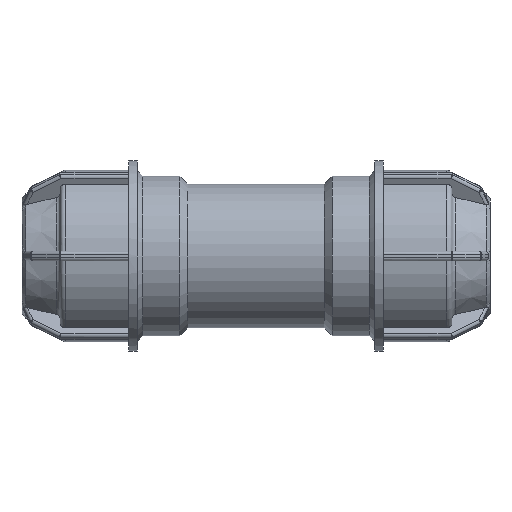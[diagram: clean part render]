
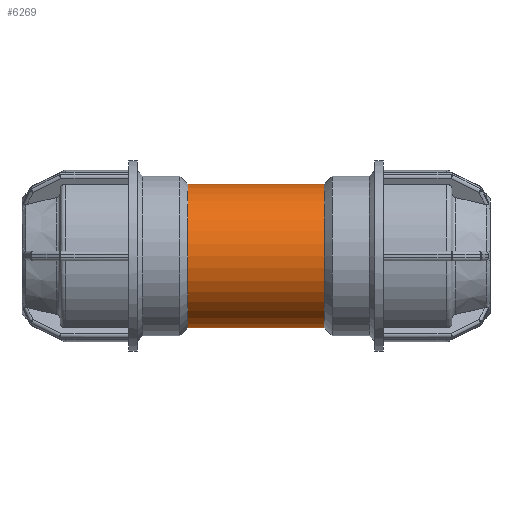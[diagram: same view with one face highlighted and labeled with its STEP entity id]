
A CAD part, front view. The second image highlights one B-rep face of the part: STEP entity #6269.
In plain terms, the highlighted cylindrical face has radius 23.04 mm (diameter 46.08 mm), a full revolution.
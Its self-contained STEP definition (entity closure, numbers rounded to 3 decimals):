
#1030=CIRCLE('',#6286,23.04);
#1197=CIRCLE('',#6652,23.04);
#1418=FACE_BOUND('',#2268,.T.);
#1419=FACE_BOUND('',#2269,.T.);
#1829=FACE_OUTER_BOUND('',#2267,.T.);
#2267=EDGE_LOOP('',(#5723));
#2268=EDGE_LOOP('',(#5724));
#2269=EDGE_LOOP('',(#5725));
#2291=B_SPLINE_CURVE_WITH_KNOTS('',3,(#8966,#8967,#8968,#8969,#8970,#8971,
#8972,#8973,#8974,#8975,#8976,#8977,#8978,#8979,#8980,#8981,#8982,#8983,
#8984,#8985,#8986,#8987,#8988,#8989,#8990,#8991,#8992,#8993,#8994,#8995,
#8996,#8997,#8998,#8999,#9000,#9001,#9002,#9003,#9004,#9005,#9006,#9007,
#9008,#9009,#9010,#9011,#9012,#9013,#9014,#9015),.UNSPECIFIED.,.T.,.F.,
(4,2,2,2,2,2,2,2,2,2,2,2,2,2,2,2,2,2,2,2,2,2,2,2,4),(0.,0.248,
0.496,0.992,1.485,1.732,1.979,
2.226,2.473,2.967,3.462,3.71,
3.958,4.206,4.454,4.95,5.444,
5.691,5.938,6.184,6.431,6.925,
7.421,7.669,7.917),.UNSPECIFIED.);
#2475=VERTEX_POINT('',#8965);
#2477=VERTEX_POINT('',#9019);
#2740=VERTEX_POINT('',#10508);
#3014=EDGE_CURVE('',#2475,#2475,#2291,.T.);
#3016=EDGE_CURVE('',#2477,#2477,#1030,.T.);
#3465=EDGE_CURVE('',#2740,#2740,#1197,.T.);
#5723=ORIENTED_EDGE('',*,*,#3016,.T.);
#5724=ORIENTED_EDGE('',*,*,#3014,.T.);
#5725=ORIENTED_EDGE('',*,*,#3465,.F.);
#5864=CYLINDRICAL_SURFACE('',#7018,23.04);
#6269=ADVANCED_FACE('',(#1829,#1418,#1419),#5864,.T.);
#6286=AXIS2_PLACEMENT_3D('',#9020,#7044,#7045);
#6652=AXIS2_PLACEMENT_3D('',#10509,#7956,#7957);
#7018=AXIS2_PLACEMENT_3D('',#12012,#8868,#8869);
#7044=DIRECTION('center_axis',(1.,0.,0.));
#7045=DIRECTION('ref_axis',(0.,0.,-1.));
#7956=DIRECTION('center_axis',(1.,0.,0.));
#7957=DIRECTION('ref_axis',(0.,0.,-1.));
#8868=DIRECTION('center_axis',(1.,0.,0.));
#8869=DIRECTION('ref_axis',(0.,1.,0.));
#8965=CARTESIAN_POINT('',(0.,19.157,-12.8));
#8966=CARTESIAN_POINT('Ctrl Pts',(0.,19.157,
-12.8));
#8967=CARTESIAN_POINT('Ctrl Pts',(0.826,19.157,-12.8));
#8968=CARTESIAN_POINT('Ctrl Pts',(1.673,19.212,-12.719));
#8969=CARTESIAN_POINT('Ctrl Pts',(3.342,19.429,-12.385));
#8970=CARTESIAN_POINT('Ctrl Pts',(4.165,19.59,-12.133));
#8971=CARTESIAN_POINT('Ctrl Pts',(6.518,20.179,-11.147));
#8972=CARTESIAN_POINT('Ctrl Pts',(7.932,20.71,-10.17));
#8973=CARTESIAN_POINT('Ctrl Pts',(10.165,21.664,-7.937));
#8974=CARTESIAN_POINT('Ctrl Pts',(11.145,22.156,-6.522));
#8975=CARTESIAN_POINT('Ctrl Pts',(12.134,22.675,-4.163));
#8976=CARTESIAN_POINT('Ctrl Pts',(12.386,22.812,-3.338));
#8977=CARTESIAN_POINT('Ctrl Pts',(12.719,22.995,-1.668));
#8978=CARTESIAN_POINT('Ctrl Pts',(12.8,23.04,-0.823));
#8979=CARTESIAN_POINT('Ctrl Pts',(12.8,23.04,0.823));
#8980=CARTESIAN_POINT('Ctrl Pts',(12.719,22.995,1.668));
#8981=CARTESIAN_POINT('Ctrl Pts',(12.386,22.812,3.338));
#8982=CARTESIAN_POINT('Ctrl Pts',(12.134,22.675,4.163));
#8983=CARTESIAN_POINT('Ctrl Pts',(11.145,22.156,6.522));
#8984=CARTESIAN_POINT('Ctrl Pts',(10.165,21.664,7.937));
#8985=CARTESIAN_POINT('Ctrl Pts',(7.932,20.71,10.17));
#8986=CARTESIAN_POINT('Ctrl Pts',(6.518,20.179,11.147));
#8987=CARTESIAN_POINT('Ctrl Pts',(4.165,19.59,12.133));
#8988=CARTESIAN_POINT('Ctrl Pts',(3.342,19.429,12.385));
#8989=CARTESIAN_POINT('Ctrl Pts',(1.673,19.212,12.719));
#8990=CARTESIAN_POINT('Ctrl Pts',(0.826,19.157,12.8));
#8991=CARTESIAN_POINT('Ctrl Pts',(-0.826,19.157,12.8));
#8992=CARTESIAN_POINT('Ctrl Pts',(-1.673,19.212,12.719));
#8993=CARTESIAN_POINT('Ctrl Pts',(-3.342,19.429,12.385));
#8994=CARTESIAN_POINT('Ctrl Pts',(-4.165,19.59,12.133));
#8995=CARTESIAN_POINT('Ctrl Pts',(-6.518,20.179,11.147));
#8996=CARTESIAN_POINT('Ctrl Pts',(-7.932,20.71,10.17));
#8997=CARTESIAN_POINT('Ctrl Pts',(-10.165,21.664,7.937));
#8998=CARTESIAN_POINT('Ctrl Pts',(-11.145,22.156,6.522));
#8999=CARTESIAN_POINT('Ctrl Pts',(-12.134,22.675,4.163));
#9000=CARTESIAN_POINT('Ctrl Pts',(-12.386,22.812,3.338));
#9001=CARTESIAN_POINT('Ctrl Pts',(-12.719,22.995,1.668));
#9002=CARTESIAN_POINT('Ctrl Pts',(-12.8,23.04,0.823));
#9003=CARTESIAN_POINT('Ctrl Pts',(-12.8,23.04,-0.823));
#9004=CARTESIAN_POINT('Ctrl Pts',(-12.719,22.995,-1.668));
#9005=CARTESIAN_POINT('Ctrl Pts',(-12.386,22.812,-3.338));
#9006=CARTESIAN_POINT('Ctrl Pts',(-12.134,22.675,-4.163));
#9007=CARTESIAN_POINT('Ctrl Pts',(-11.145,22.156,-6.522));
#9008=CARTESIAN_POINT('Ctrl Pts',(-10.165,21.664,-7.937));
#9009=CARTESIAN_POINT('Ctrl Pts',(-7.932,20.71,-10.17));
#9010=CARTESIAN_POINT('Ctrl Pts',(-6.518,20.179,-11.147));
#9011=CARTESIAN_POINT('Ctrl Pts',(-4.165,19.59,-12.133));
#9012=CARTESIAN_POINT('Ctrl Pts',(-3.342,19.429,-12.385));
#9013=CARTESIAN_POINT('Ctrl Pts',(-1.673,19.212,-12.719));
#9014=CARTESIAN_POINT('Ctrl Pts',(-0.826,19.157,-12.8));
#9015=CARTESIAN_POINT('Ctrl Pts',(0.,19.157,
-12.8));
#9019=CARTESIAN_POINT('',(-21.8,23.04,0.));
#9020=CARTESIAN_POINT('Origin',(-21.8,0.,0.));
#10508=CARTESIAN_POINT('',(21.8,23.04,0.));
#10509=CARTESIAN_POINT('Origin',(21.8,0.,0.));
#12012=CARTESIAN_POINT('Origin',(10.9,0.,0.));
